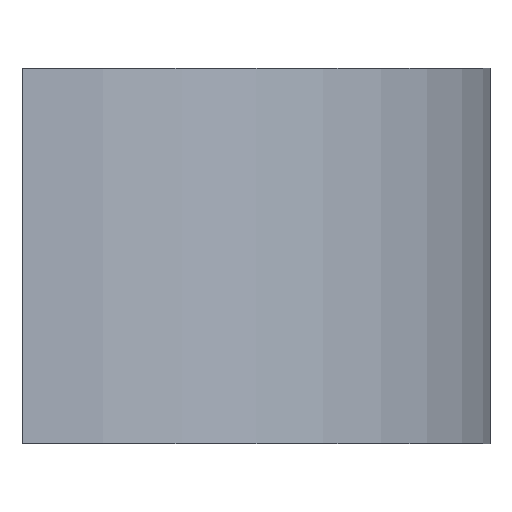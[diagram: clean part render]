
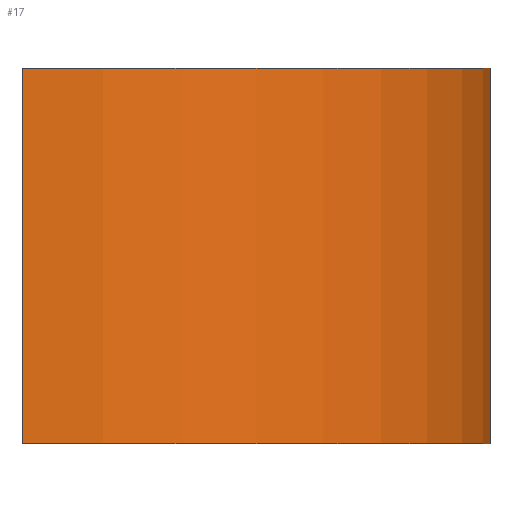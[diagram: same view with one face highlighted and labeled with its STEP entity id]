
A CAD part, front view. The second image highlights one B-rep face of the part: STEP entity #17.
In plain terms, the highlighted cylindrical face has radius 2.99 mm (diameter 5.98 mm), a partial arc.
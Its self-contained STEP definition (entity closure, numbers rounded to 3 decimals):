
#17 = ADVANCED_FACE('',(#18),#32,.T.);
#18 = FACE_BOUND('',#19,.T.);
#19 = EDGE_LOOP('',(#20,#55,#84,#110));
#20 = ORIENTED_EDGE('',*,*,#21,.T.);
#21 = EDGE_CURVE('',#22,#24,#26,.T.);
#22 = VERTEX_POINT('',#23);
#23 = CARTESIAN_POINT('',(2.99,0.,1.5));
#24 = VERTEX_POINT('',#25);
#25 = CARTESIAN_POINT('',(2.99,0.,3.9));
#26 = SURFACE_CURVE('',#27,(#31,#43),.PCURVE_S1.);
#27 = LINE('',#28,#29);
#28 = CARTESIAN_POINT('',(2.99,0.,1.5));
#29 = VECTOR('',#30,1.);
#30 = DIRECTION('',(0.,0.,1.));
#31 = PCURVE('',#32,#37);
#32 = CYLINDRICAL_SURFACE('',#33,2.99);
#33 = AXIS2_PLACEMENT_3D('',#34,#35,#36);
#34 = CARTESIAN_POINT('',(0.,0.,1.5));
#35 = DIRECTION('',(0.,0.,1.));
#36 = DIRECTION('',(1.,0.,-0.));
#37 = DEFINITIONAL_REPRESENTATION('',(#38),#42);
#38 = LINE('',#39,#40);
#39 = CARTESIAN_POINT('',(6.283,-0.));
#40 = VECTOR('',#41,1.);
#41 = DIRECTION('',(0.,1.));
#42 = ( GEOMETRIC_REPRESENTATION_CONTEXT(2) 
PARAMETRIC_REPRESENTATION_CONTEXT() REPRESENTATION_CONTEXT('2D SPACE',''
  ) );
#43 = PCURVE('',#44,#49);
#44 = CYLINDRICAL_SURFACE('',#45,2.99);
#45 = AXIS2_PLACEMENT_3D('',#46,#47,#48);
#46 = CARTESIAN_POINT('',(0.,0.,1.5));
#47 = DIRECTION('',(0.,0.,1.));
#48 = DIRECTION('',(1.,0.,-0.));
#49 = DEFINITIONAL_REPRESENTATION('',(#50),#54);
#50 = LINE('',#51,#52);
#51 = CARTESIAN_POINT('',(0.,-0.));
#52 = VECTOR('',#53,1.);
#53 = DIRECTION('',(0.,1.));
#54 = ( GEOMETRIC_REPRESENTATION_CONTEXT(2) 
PARAMETRIC_REPRESENTATION_CONTEXT() REPRESENTATION_CONTEXT('2D SPACE',''
  ) );
#55 = ORIENTED_EDGE('',*,*,#56,.F.);
#56 = EDGE_CURVE('',#57,#24,#59,.T.);
#57 = VERTEX_POINT('',#58);
#58 = CARTESIAN_POINT('',(0.,-2.99,3.9));
#59 = SURFACE_CURVE('',#60,(#65,#72),.PCURVE_S1.);
#60 = CIRCLE('',#61,2.99);
#61 = AXIS2_PLACEMENT_3D('',#62,#63,#64);
#62 = CARTESIAN_POINT('',(0.,0.,3.9));
#63 = DIRECTION('',(0.,0.,1.));
#64 = DIRECTION('',(1.,0.,-0.));
#65 = PCURVE('',#32,#66);
#66 = DEFINITIONAL_REPRESENTATION('',(#67),#71);
#67 = LINE('',#68,#69);
#68 = CARTESIAN_POINT('',(0.,2.4));
#69 = VECTOR('',#70,1.);
#70 = DIRECTION('',(1.,0.));
#71 = ( GEOMETRIC_REPRESENTATION_CONTEXT(2) 
PARAMETRIC_REPRESENTATION_CONTEXT() REPRESENTATION_CONTEXT('2D SPACE',''
  ) );
#72 = PCURVE('',#73,#78);
#73 = PLANE('',#74);
#74 = AXIS2_PLACEMENT_3D('',#75,#76,#77);
#75 = CARTESIAN_POINT('',(0.,0.,3.9));
#76 = DIRECTION('',(0.,0.,1.));
#77 = DIRECTION('',(1.,0.,-0.));
#78 = DEFINITIONAL_REPRESENTATION('',(#79),#83);
#79 = CIRCLE('',#80,2.99);
#80 = AXIS2_PLACEMENT_2D('',#81,#82);
#81 = CARTESIAN_POINT('',(0.,0.));
#82 = DIRECTION('',(1.,0.));
#83 = ( GEOMETRIC_REPRESENTATION_CONTEXT(2) 
PARAMETRIC_REPRESENTATION_CONTEXT() REPRESENTATION_CONTEXT('2D SPACE',''
  ) );
#84 = ORIENTED_EDGE('',*,*,#85,.F.);
#85 = EDGE_CURVE('',#86,#57,#88,.T.);
#86 = VERTEX_POINT('',#87);
#87 = CARTESIAN_POINT('',(0.,-2.99,1.5));
#88 = SURFACE_CURVE('',#89,(#93,#99),.PCURVE_S1.);
#89 = LINE('',#90,#91);
#90 = CARTESIAN_POINT('',(0.,-2.99,1.5));
#91 = VECTOR('',#92,1.);
#92 = DIRECTION('',(0.,0.,1.));
#93 = PCURVE('',#32,#94);
#94 = DEFINITIONAL_REPRESENTATION('',(#95),#98);
#95 = B_SPLINE_CURVE_WITH_KNOTS('',1,(#96,#97),.UNSPECIFIED.,.F.,.F.,(2,
    2),(0.,2.4),.PIECEWISE_BEZIER_KNOTS.);
#96 = CARTESIAN_POINT('',(4.712,0.));
#97 = CARTESIAN_POINT('',(4.712,2.4));
#98 = ( GEOMETRIC_REPRESENTATION_CONTEXT(2) 
PARAMETRIC_REPRESENTATION_CONTEXT() REPRESENTATION_CONTEXT('2D SPACE',''
  ) );
#99 = PCURVE('',#100,#105);
#100 = PLANE('',#101);
#101 = AXIS2_PLACEMENT_3D('',#102,#103,#104);
#102 = CARTESIAN_POINT('',(0.,-50.,-50.));
#103 = DIRECTION('',(1.,0.,0.));
#104 = DIRECTION('',(0.,0.,1.));
#105 = DEFINITIONAL_REPRESENTATION('',(#106),#109);
#106 = B_SPLINE_CURVE_WITH_KNOTS('',1,(#107,#108),.UNSPECIFIED.,.F.,.F.,
  (2,2),(0.,2.4),.PIECEWISE_BEZIER_KNOTS.);
#107 = CARTESIAN_POINT('',(51.5,-47.01));
#108 = CARTESIAN_POINT('',(53.9,-47.01));
#109 = ( GEOMETRIC_REPRESENTATION_CONTEXT(2) 
PARAMETRIC_REPRESENTATION_CONTEXT() REPRESENTATION_CONTEXT('2D SPACE',''
  ) );
#110 = ORIENTED_EDGE('',*,*,#111,.T.);
#111 = EDGE_CURVE('',#86,#22,#112,.T.);
#112 = SURFACE_CURVE('',#113,(#118,#125),.PCURVE_S1.);
#113 = CIRCLE('',#114,2.99);
#114 = AXIS2_PLACEMENT_3D('',#115,#116,#117);
#115 = CARTESIAN_POINT('',(0.,0.,1.5));
#116 = DIRECTION('',(0.,0.,1.));
#117 = DIRECTION('',(1.,0.,-0.));
#118 = PCURVE('',#32,#119);
#119 = DEFINITIONAL_REPRESENTATION('',(#120),#124);
#120 = LINE('',#121,#122);
#121 = CARTESIAN_POINT('',(0.,0.));
#122 = VECTOR('',#123,1.);
#123 = DIRECTION('',(1.,0.));
#124 = ( GEOMETRIC_REPRESENTATION_CONTEXT(2) 
PARAMETRIC_REPRESENTATION_CONTEXT() REPRESENTATION_CONTEXT('2D SPACE',''
  ) );
#125 = PCURVE('',#126,#131);
#126 = PLANE('',#127);
#127 = AXIS2_PLACEMENT_3D('',#128,#129,#130);
#128 = CARTESIAN_POINT('',(0.,0.,1.5));
#129 = DIRECTION('',(0.,0.,1.));
#130 = DIRECTION('',(1.,0.,-0.));
#131 = DEFINITIONAL_REPRESENTATION('',(#132),#136);
#132 = CIRCLE('',#133,2.99);
#133 = AXIS2_PLACEMENT_2D('',#134,#135);
#134 = CARTESIAN_POINT('',(0.,0.));
#135 = DIRECTION('',(1.,0.));
#136 = ( GEOMETRIC_REPRESENTATION_CONTEXT(2) 
PARAMETRIC_REPRESENTATION_CONTEXT() REPRESENTATION_CONTEXT('2D SPACE',''
  ) );
